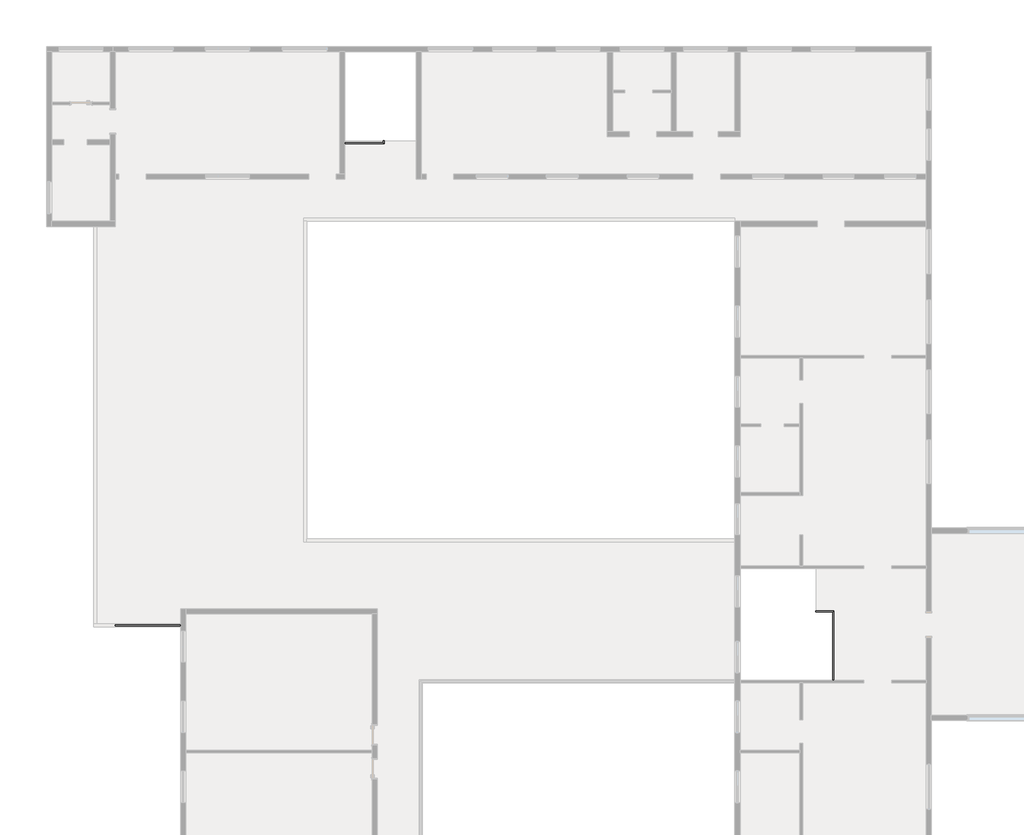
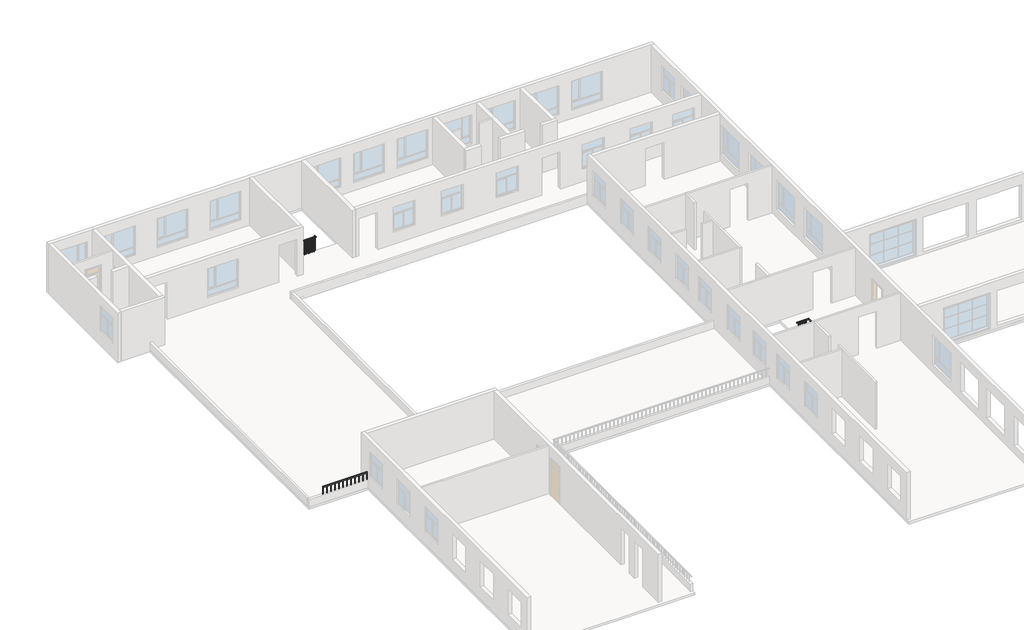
# One storey, part 4 of 4: 3 railings.
"""IFC4 building model written with IfcOpenShell, lengths in millimetres."""

import ifcopenshell
import ifcopenshell.guid

model = None  # the IFC model being written
_history = None  # IfcOwnerHistory: only IFC2X3 demands one
_inside = {}  # id of a spatial element -> (the spatial element, [elements in it])
_under = {}  # id of a project, library or spatial element -> (it, [spatial elements below it])
_declared = {}  # id of a project -> (the project, [libraries it declares])
_typed = {}  # id of a type object -> (the type object, [elements of that type])
_made_of = {}  # id of a material, layer set ... -> (it, [elements and type objects made of it])


def new_model(schema):
    """Start an empty IFC model of exactly this schema.

    Asked for "IFC4X3", IfcOpenShell would pick the latest addendum, in which some entities
    have other attributes; the version numbers below select the first issue.
    IFC2X3 requires an IfcOwnerHistory on every rooted entity: one is made here for all.
    """
    global model, _history
    if schema == "IFC4X3":
        model = ifcopenshell.file(schema_version=(4, 3, 0, 0))
    else:
        model = ifcopenshell.file(schema=schema)
    _inside.clear()
    _under.clear()
    _declared.clear()
    _typed.clear()
    _made_of.clear()
    _history = None
    if model.schema == "IFC2X3":
        org = make("IfcOrganization", Name="unknown")
        user = make(
            "IfcPersonAndOrganization",
            ThePerson=make("IfcPerson", FamilyName="unknown"),
            TheOrganization=org,
        )
        app = make(
            "IfcApplication",
            ApplicationDeveloper=org,
            Version="unknown",
            ApplicationFullName="unknown",
            ApplicationIdentifier="unknown",
        )
        _history = make(
            "IfcOwnerHistory",
            OwningUser=user,
            OwningApplication=app,
            ChangeAction="ADDED",
            CreationDate=0,
        )
    return model


def make(cls, **values):
    """One entity of the class cls with the attributes given. An attribute that is None is left unset."""
    return model.create_entity(
        cls, **{name: value for name, value in values.items() if value is not None}
    )


def rooted(cls, **values):
    """An entity with a GlobalId (a new one), such as an element, a storey or a relation."""
    return make(cls, GlobalId=ifcopenshell.guid.new(), OwnerHistory=_history, **values)


def si_unit(unit_type, name, prefix=None):
    """IfcSIUnit, for example si_unit("LENGTHUNIT", "METRE", prefix="MILLI")."""
    return make("IfcSIUnit", UnitType=unit_type, Prefix=prefix, Name=name)


def assignment(units):
    """IfcUnitAssignment: the units of a project."""
    return None if units is None else make("IfcUnitAssignment", Units=units)


def point(xyz):
    """IfcCartesianPoint."""
    return None if xyz is None else make("IfcCartesianPoint", Coordinates=xyz)


def direction(xyz):
    """IfcDirection."""
    return None if xyz is None else make("IfcDirection", DirectionRatios=xyz)


def frame(location, z_axis=None, x_axis=None):
    """IfcAxis2Placement3D, a coordinate frame: its origin and axes. An axis left out is left unset."""
    return make(
        "IfcAxis2Placement3D",
        Location=point(location),
        Axis=direction(z_axis),
        RefDirection=direction(x_axis),
    )


def origin():
    """The frame at (0, 0, 0) with its axes left unset."""
    return frame((0.0, 0.0, 0.0))


def place(relative_to, where):
    """IfcLocalPlacement: puts the frame where relative to a parent placement (None: the world)."""
    return make(
        "IfcLocalPlacement", PlacementRelTo=relative_to, RelativePlacement=where
    )


def context(
    kind, dimensions, precision=None, world=None, true_north=None, identifier=None
):
    """IfcGeometricRepresentationContext, for example the 3D "Model" context."""
    return make(
        "IfcGeometricRepresentationContext",
        ContextIdentifier=identifier,
        ContextType=kind,
        CoordinateSpaceDimension=dimensions,
        Precision=precision,
        WorldCoordinateSystem=world,
        TrueNorth=true_north,
    )


def project(units=None, contexts=None):
    """IfcProject with its units and contexts."""
    return rooted(
        "IfcProject",
        Name="project",
        RepresentationContexts=contexts,
        UnitsInContext=assignment(units),
    )


def spatial(cls, under=None, at=None, **own):
    """A site, building, storey or space (cls), placed at a placement, below another one or the project."""
    s = rooted(cls, ObjectPlacement=at, **own)
    if under is not None:
        _under.setdefault(under.id(), (under, []))[1].append(s)
    return s


def polyline(points):
    """IfcPolyline through the points."""
    return make("IfcPolyline", Points=[point(p) for p in points])


def outline(outer, holes=None, kind="AREA"):
    """IfcArbitraryClosedProfileDef: a profile drawn as a closed curve; with holes, ...WithVoids."""
    if holes is None:
        return make("IfcArbitraryClosedProfileDef", ProfileType=kind, OuterCurve=outer)
    return make(
        "IfcArbitraryProfileDefWithVoids",
        ProfileType=kind,
        OuterCurve=outer,
        InnerCurves=holes,
    )


def extrude(swept, where, along, depth):
    """IfcExtrudedAreaSolid: the profile swept, set in the frame where, extruded along a direction by depth."""
    return make(
        "IfcExtrudedAreaSolid",
        SweptArea=swept,
        Position=where,
        ExtrudedDirection=direction(along),
        Depth=depth,
    )


def faces_of(points, faces, orient=None, outer=None):
    """IfcFace entities. A face is a list of loops; a loop is a list of indices into points, from 0.

    orient and outer hold one flag for each loop. By default every Orientation is true, the
    first loop of a face is its IfcFaceOuterBound and the others are IfcFaceBound.
    """
    made = []
    for i, loops in enumerate(faces):
        bounds = []
        for j, loop in enumerate(loops):
            is_outer = j == 0 if outer is None else outer[i][j]
            bounds.append(
                make(
                    "IfcFaceOuterBound" if is_outer else "IfcFaceBound",
                    Bound=make("IfcPolyLoop", Polygon=[points[k] for k in loop]),
                    Orientation=True if orient is None else orient[i][j],
                )
            )
        made.append(make("IfcFace", Bounds=bounds))
    return made


def faceted_brep(points, faces, orient=None, outer=None, voids=None):
    """IfcFacetedBrep: a solid bounded by flat faces; with voids (closed shells), ...WithVoids."""
    shared = [point(p) for p in points]
    hull = make("IfcClosedShell", CfsFaces=faces_of(shared, faces, orient, outer))
    if voids is None:
        return make("IfcFacetedBrep", Outer=hull)
    return make(
        "IfcFacetedBrepWithVoids",
        Outer=hull,
        Voids=[
            make(cls, CfsFaces=faces_of(shared, fs, o, b)) for cls, fs, o, b in voids
        ],
    )


def shape(context_of_items, identifier, shape_type, items):
    """IfcShapeRepresentation: the items that make up one representation, for example the "Body"."""
    return make(
        "IfcShapeRepresentation",
        ContextOfItems=context_of_items,
        RepresentationIdentifier=identifier,
        RepresentationType=shape_type,
        Items=items,
    )


def made_of(thing, what):
    """Note that an element or type object is made of a material, layer set ...; save() writes the relation."""
    if what is not None:
        _made_of.setdefault(what.id(), (what, []))[1].append(thing)
    return thing


def element(
    cls,
    number,
    at=None,
    inside=None,
    cuts=None,
    type_object=None,
    material=None,
    context=None,
    identifier="Body",
    shape_type=None,
    held_by="IfcProductDefinitionShape",
    body=None,
    shapes=None,
    **own,
):
    """One element of the class cls, such as IfcWall. Its Tag is "e" and its number.

    at: its placement. inside: the storey or other place that contains it. cuts: it is an
    opening in that element (IfcRelVoidsElement). A single representation is given by context,
    identifier, shape_type and body (its items); several are given by shapes. held_by: the class
    of the entity that holds the representations. save() writes the other relations.
    """
    e = rooted(cls, Tag="e%d" % number, ObjectPlacement=at, **own)
    if body is not None:
        shapes = [shape(context, identifier, shape_type, body)]
    if shapes is not None:
        e.Representation = make(held_by, Representations=shapes)
    if inside is not None:
        _inside.setdefault(inside.id(), (inside, []))[1].append(e)
    if cuts is not None:
        rooted(
            "IfcRelVoidsElement", RelatingBuildingElement=cuts, RelatedOpeningElement=e
        )
    if type_object is not None:
        _typed.setdefault(type_object.id(), (type_object, []))[1].append(e)
    return made_of(e, material)


def aggregate(whole, parts):
    """IfcRelAggregates: a whole, such as a stair, and the parts it consists of."""
    return rooted("IfcRelAggregates", RelatingObject=whole, RelatedObjects=parts)


def save(model, path):
    """Write the relations noted so far, then the file.

    IfcRelAggregates (storeys below a building ...), IfcRelContainedInSpatialStructure (elements
    in a storey), IfcRelDefinesByType, IfcRelAssociatesMaterial and IfcRelDeclares: one each for
    every whole, place, type object, material and project.
    """
    for whole, parts in _under.values():
        aggregate(whole, parts)
    for where, things in _inside.values():
        rooted(
            "IfcRelContainedInSpatialStructure",
            RelatedElements=things,
            RelatingStructure=where,
        )
    for kind, things in _typed.values():
        rooted("IfcRelDefinesByType", RelatedObjects=things, RelatingType=kind)
    for what, things in _made_of.values():
        rooted("IfcRelAssociatesMaterial", RelatedObjects=things, RelatingMaterial=what)
    for by, libraries in _declared.values():
        rooted("IfcRelDeclares", RelatingContext=by, RelatedDefinitions=libraries)
    model.write(path)


model = new_model("IFC4")

# Units and contexts
model_context = context("Model", 3, world=origin())
ifc_project = project(units=[si_unit("LENGTHUNIT", "METRE", prefix="MILLI")], contexts=[model_context])

# Site, building, storey
site = spatial("IfcSite", under=ifc_project)
building = spatial("IfcBuilding", under=site)
storey = spatial("IfcBuildingStorey", under=building, Name="二层", Elevation=3600.0)

# Railings
placement = place(None, origin())
element("IfcRailing", 1, ObjectType="900mm", at=placement, inside=storey, context=model_context, shape_type="SweptSolid", body=[
    extrude(outline(polyline([(-28830.2831392, -8543.7838385), (-28830.2831392, -8593.7838385), (-32150.2831392, -8593.7838385), (-32150.2831392, -8543.7838385), (-28830.2831392, -8543.7838385)])), frame((0.0, 0.0, 4650.0), z_axis=(0.0, 0.0, 1.0), x_axis=(1.0, 0.0, 0.0)), (0.0, 0.0, 1.0), 50.0),
    extrude(outline(polyline([(-32120.2831392, -8558.7838385), (-32120.2831392, -8578.7838385), (-32140.2831392, -8578.7838385), (-32140.2831392, -8558.7838385), (-32120.2831392, -8558.7838385)])), frame((0.0, 0.0, 4150.0), z_axis=(0.0, 0.0, 1.0), x_axis=(1.0, 0.0, 0.0)), (0.0, 0.0, 1.0), 500.0),
    extrude(outline(polyline([(-31845.2831392, -8558.7838385), (-31845.2831392, -8578.7838385), (-31865.2831392, -8578.7838385), (-31865.2831392, -8558.7838385), (-31845.2831392, -8558.7838385)])), frame((0.0, 0.0, 4150.0), z_axis=(0.0, 0.0, 1.0), x_axis=(1.0, 0.0, 0.0)), (0.0, 0.0, 1.0), 500.0),
    extrude(outline(polyline([(-31570.2831392, -8558.7838385), (-31570.2831392, -8578.7838385), (-31590.2831392, -8578.7838385), (-31590.2831392, -8558.7838385), (-31570.2831392, -8558.7838385)])), frame((0.0, 0.0, 4150.0), z_axis=(0.0, 0.0, 1.0), x_axis=(1.0, 0.0, 0.0)), (0.0, 0.0, 1.0), 500.0),
    extrude(outline(polyline([(-31295.2831392, -8558.7838385), (-31295.2831392, -8578.7838385), (-31315.2831392, -8578.7838385), (-31315.2831392, -8558.7838385), (-31295.2831392, -8558.7838385)])), frame((0.0, 0.0, 4150.0), z_axis=(0.0, 0.0, 1.0), x_axis=(1.0, 0.0, 0.0)), (0.0, 0.0, 1.0), 500.0),
    extrude(outline(polyline([(-31020.2831392, -8558.7838385), (-31020.2831392, -8578.7838385), (-31040.2831392, -8578.7838385), (-31040.2831392, -8558.7838385), (-31020.2831392, -8558.7838385)])), frame((0.0, 0.0, 4150.0), z_axis=(0.0, 0.0, 1.0), x_axis=(1.0, 0.0, 0.0)), (0.0, 0.0, 1.0), 500.0),
    extrude(outline(polyline([(-30745.2831392, -8558.7838385), (-30745.2831392, -8578.7838385), (-30765.2831392, -8578.7838385), (-30765.2831392, -8558.7838385), (-30745.2831392, -8558.7838385)])), frame((0.0, 0.0, 4150.0), z_axis=(0.0, 0.0, 1.0), x_axis=(1.0, 0.0, 0.0)), (0.0, 0.0, 1.0), 500.0),
    extrude(outline(polyline([(-30470.2831392, -8558.7838385), (-30470.2831392, -8578.7838385), (-30490.2831392, -8578.7838385), (-30490.2831392, -8558.7838385), (-30470.2831392, -8558.7838385)])), frame((0.0, 0.0, 4150.0), z_axis=(0.0, 0.0, 1.0), x_axis=(1.0, 0.0, 0.0)), (0.0, 0.0, 1.0), 500.0),
    extrude(outline(polyline([(-30195.2831392, -8558.7838385), (-30195.2831392, -8578.7838385), (-30215.2831392, -8578.7838385), (-30215.2831392, -8558.7838385), (-30195.2831392, -8558.7838385)])), frame((0.0, 0.0, 4150.0), z_axis=(0.0, 0.0, 1.0), x_axis=(1.0, 0.0, 0.0)), (0.0, 0.0, 1.0), 500.0),
    extrude(outline(polyline([(-29920.2831392, -8558.7838385), (-29920.2831392, -8578.7838385), (-29940.2831392, -8578.7838385), (-29940.2831392, -8558.7838385), (-29920.2831392, -8558.7838385)])), frame((0.0, 0.0, 4150.0), z_axis=(0.0, 0.0, 1.0), x_axis=(1.0, 0.0, 0.0)), (0.0, 0.0, 1.0), 500.0),
    extrude(outline(polyline([(-29645.2831392, -8558.7838385), (-29645.2831392, -8578.7838385), (-29665.2831392, -8578.7838385), (-29665.2831392, -8558.7838385), (-29645.2831392, -8558.7838385)])), frame((0.0, 0.0, 4150.0), z_axis=(0.0, 0.0, 1.0), x_axis=(1.0, 0.0, 0.0)), (0.0, 0.0, 1.0), 500.0),
    extrude(outline(polyline([(-29370.2831392, -8558.7838385), (-29370.2831392, -8578.7838385), (-29390.2831392, -8578.7838385), (-29390.2831392, -8558.7838385), (-29370.2831392, -8558.7838385)])), frame((0.0, 0.0, 4150.0), z_axis=(0.0, 0.0, 1.0), x_axis=(1.0, 0.0, 0.0)), (0.0, 0.0, 1.0), 500.0),
    extrude(outline(polyline([(-29095.2831392, -8558.7838385), (-29095.2831392, -8578.7838385), (-29115.2831392, -8578.7838385), (-29115.2831392, -8558.7838385), (-29095.2831392, -8558.7838385)])), frame((0.0, 0.0, 4150.0), z_axis=(0.0, 0.0, 1.0), x_axis=(1.0, 0.0, 0.0)), (0.0, 0.0, 1.0), 500.0),
])
element("IfcRailing", 2, ObjectType="900mm 3", at=placement, inside=storey, context=model_context, shape_type="SolidModel", body=[
    faceted_brep([(809.7168608, -7883.7838385, 4680.0), (809.7168608, -7883.7838385, 4630.0), (809.7168608, -7933.7838385, 4630.0), (809.7168608, -7933.7838385, 4680.0), (1659.7168608, -7883.7838385, 4680.0), (1659.7168608, -7883.7838385, 4630.0), (1609.7168608, -7933.7838385, 4630.0), (1609.7168608, -7933.7838385, 4680.0), (1659.7168608, -11153.7838385, 4680.0), (1609.7168608, -11153.7838385, 4680.0), (1609.7168608, -11153.7838385, 4630.0), (1659.7168608, -11153.7838385, 4630.0)], [[[0, 1, 2, 3]], [[1, 0, 4, 5]], [[2, 1, 5, 6]], [[3, 2, 6, 7]], [[0, 3, 7, 4]], [[8, 9, 10, 11]], [[5, 4, 8, 11]], [[6, 5, 11, 10]], [[7, 6, 10, 9]], [[4, 7, 9, 8]]]),
    extrude(outline(polyline([(1624.7168608, -11018.7838385), (1644.7168608, -11018.7838385), (1644.7168608, -11038.7838385), (1624.7168608, -11038.7838385), (1624.7168608, -11018.7838385)])), frame((0.0, 0.0, 3600.0), z_axis=(0.0, 0.0, 1.0), x_axis=(1.0, 0.0, 0.0)), (0.0, 0.0, 1.0), 1030.0),
    extrude(outline(polyline([(1624.7168608, -10888.7838385), (1644.7168608, -10888.7838385), (1644.7168608, -10908.7838385), (1624.7168608, -10908.7838385), (1624.7168608, -10888.7838385)])), frame((0.0, 0.0, 3600.0), z_axis=(0.0, 0.0, 1.0), x_axis=(1.0, 0.0, 0.0)), (0.0, 0.0, 1.0), 1030.0),
    extrude(outline(polyline([(1624.7168608, -10758.7838385), (1644.7168608, -10758.7838385), (1644.7168608, -10778.7838385), (1624.7168608, -10778.7838385), (1624.7168608, -10758.7838385)])), frame((0.0, 0.0, 3600.0), z_axis=(0.0, 0.0, 1.0), x_axis=(1.0, 0.0, 0.0)), (0.0, 0.0, 1.0), 1030.0),
    extrude(outline(polyline([(1624.7168608, -10628.7838385), (1644.7168608, -10628.7838385), (1644.7168608, -10648.7838385), (1624.7168608, -10648.7838385), (1624.7168608, -10628.7838385)])), frame((0.0, 0.0, 3600.0), z_axis=(0.0, 0.0, 1.0), x_axis=(1.0, 0.0, 0.0)), (0.0, 0.0, 1.0), 1030.0),
    extrude(outline(polyline([(1624.7168608, -10498.7838385), (1644.7168608, -10498.7838385), (1644.7168608, -10518.7838385), (1624.7168608, -10518.7838385), (1624.7168608, -10498.7838385)])), frame((0.0, 0.0, 3600.0), z_axis=(0.0, 0.0, 1.0), x_axis=(1.0, 0.0, 0.0)), (0.0, 0.0, 1.0), 1030.0),
    extrude(outline(polyline([(1624.7168608, -10368.7838385), (1644.7168608, -10368.7838385), (1644.7168608, -10388.7838385), (1624.7168608, -10388.7838385), (1624.7168608, -10368.7838385)])), frame((0.0, 0.0, 3600.0), z_axis=(0.0, 0.0, 1.0), x_axis=(1.0, 0.0, 0.0)), (0.0, 0.0, 1.0), 1030.0),
    extrude(outline(polyline([(1624.7168608, -10238.7838385), (1644.7168608, -10238.7838385), (1644.7168608, -10258.7838385), (1624.7168608, -10258.7838385), (1624.7168608, -10238.7838385)])), frame((0.0, 0.0, 3600.0), z_axis=(0.0, 0.0, 1.0), x_axis=(1.0, 0.0, 0.0)), (0.0, 0.0, 1.0), 1030.0),
    extrude(outline(polyline([(1624.7168608, -10108.7838385), (1644.7168608, -10108.7838385), (1644.7168608, -10128.7838385), (1624.7168608, -10128.7838385), (1624.7168608, -10108.7838385)])), frame((0.0, 0.0, 3600.0), z_axis=(0.0, 0.0, 1.0), x_axis=(1.0, 0.0, 0.0)), (0.0, 0.0, 1.0), 1030.0),
    extrude(outline(polyline([(1624.7168608, -9978.7838385), (1644.7168608, -9978.7838385), (1644.7168608, -9998.7838385), (1624.7168608, -9998.7838385), (1624.7168608, -9978.7838385)])), frame((0.0, 0.0, 3600.0), z_axis=(0.0, 0.0, 1.0), x_axis=(1.0, 0.0, 0.0)), (0.0, 0.0, 1.0), 1030.0),
    extrude(outline(polyline([(1624.7168608, -9848.7838385), (1644.7168608, -9848.7838385), (1644.7168608, -9868.7838385), (1624.7168608, -9868.7838385), (1624.7168608, -9848.7838385)])), frame((0.0, 0.0, 3600.0), z_axis=(0.0, 0.0, 1.0), x_axis=(1.0, 0.0, 0.0)), (0.0, 0.0, 1.0), 1030.0),
    extrude(outline(polyline([(1624.7168608, -9718.7838385), (1644.7168608, -9718.7838385), (1644.7168608, -9738.7838385), (1624.7168608, -9738.7838385), (1624.7168608, -9718.7838385)])), frame((0.0, 0.0, 3600.0), z_axis=(0.0, 0.0, 1.0), x_axis=(1.0, 0.0, 0.0)), (0.0, 0.0, 1.0), 1030.0),
    extrude(outline(polyline([(1624.7168608, -9588.7838385), (1644.7168608, -9588.7838385), (1644.7168608, -9608.7838385), (1624.7168608, -9608.7838385), (1624.7168608, -9588.7838385)])), frame((0.0, 0.0, 3600.0), z_axis=(0.0, 0.0, 1.0), x_axis=(1.0, 0.0, 0.0)), (0.0, 0.0, 1.0), 1030.0),
    extrude(outline(polyline([(1624.7168608, -9458.7838385), (1644.7168608, -9458.7838385), (1644.7168608, -9478.7838385), (1624.7168608, -9478.7838385), (1624.7168608, -9458.7838385)])), frame((0.0, 0.0, 3600.0), z_axis=(0.0, 0.0, 1.0), x_axis=(1.0, 0.0, 0.0)), (0.0, 0.0, 1.0), 1030.0),
    extrude(outline(polyline([(1624.7168608, -9328.7838385), (1644.7168608, -9328.7838385), (1644.7168608, -9348.7838385), (1624.7168608, -9348.7838385), (1624.7168608, -9328.7838385)])), frame((0.0, 0.0, 3600.0), z_axis=(0.0, 0.0, 1.0), x_axis=(1.0, 0.0, 0.0)), (0.0, 0.0, 1.0), 1030.0),
    extrude(outline(polyline([(1624.7168608, -9198.7838385), (1644.7168608, -9198.7838385), (1644.7168608, -9218.7838385), (1624.7168608, -9218.7838385), (1624.7168608, -9198.7838385)])), frame((0.0, 0.0, 3600.0), z_axis=(0.0, 0.0, 1.0), x_axis=(1.0, 0.0, 0.0)), (0.0, 0.0, 1.0), 1030.0),
    extrude(outline(polyline([(1624.7168608, -9068.7838385), (1644.7168608, -9068.7838385), (1644.7168608, -9088.7838385), (1624.7168608, -9088.7838385), (1624.7168608, -9068.7838385)])), frame((0.0, 0.0, 3600.0), z_axis=(0.0, 0.0, 1.0), x_axis=(1.0, 0.0, 0.0)), (0.0, 0.0, 1.0), 1030.0),
    extrude(outline(polyline([(1624.7168608, -8938.7838385), (1644.7168608, -8938.7838385), (1644.7168608, -8958.7838385), (1624.7168608, -8958.7838385), (1624.7168608, -8938.7838385)])), frame((0.0, 0.0, 3600.0), z_axis=(0.0, 0.0, 1.0), x_axis=(1.0, 0.0, 0.0)), (0.0, 0.0, 1.0), 1030.0),
    extrude(outline(polyline([(1624.7168608, -8808.7838385), (1644.7168608, -8808.7838385), (1644.7168608, -8828.7838385), (1624.7168608, -8828.7838385), (1624.7168608, -8808.7838385)])), frame((0.0, 0.0, 3600.0), z_axis=(0.0, 0.0, 1.0), x_axis=(1.0, 0.0, 0.0)), (0.0, 0.0, 1.0), 1030.0),
    extrude(outline(polyline([(1624.7168608, -8678.7838385), (1644.7168608, -8678.7838385), (1644.7168608, -8698.7838385), (1624.7168608, -8698.7838385), (1624.7168608, -8678.7838385)])), frame((0.0, 0.0, 3600.0), z_axis=(0.0, 0.0, 1.0), x_axis=(1.0, 0.0, 0.0)), (0.0, 0.0, 1.0), 1030.0),
    extrude(outline(polyline([(1624.7168608, -8548.7838385), (1644.7168608, -8548.7838385), (1644.7168608, -8568.7838385), (1624.7168608, -8568.7838385), (1624.7168608, -8548.7838385)])), frame((0.0, 0.0, 3600.0), z_axis=(0.0, 0.0, 1.0), x_axis=(1.0, 0.0, 0.0)), (0.0, 0.0, 1.0), 1030.0),
    extrude(outline(polyline([(1624.7168608, -8418.7838385), (1644.7168608, -8418.7838385), (1644.7168608, -8438.7838385), (1624.7168608, -8438.7838385), (1624.7168608, -8418.7838385)])), frame((0.0, 0.0, 3600.0), z_axis=(0.0, 0.0, 1.0), x_axis=(1.0, 0.0, 0.0)), (0.0, 0.0, 1.0), 1030.0),
    extrude(outline(polyline([(1624.7168608, -8288.7838385), (1644.7168608, -8288.7838385), (1644.7168608, -8308.7838385), (1624.7168608, -8308.7838385), (1624.7168608, -8288.7838385)])), frame((0.0, 0.0, 3600.0), z_axis=(0.0, 0.0, 1.0), x_axis=(1.0, 0.0, 0.0)), (0.0, 0.0, 1.0), 1030.0),
    extrude(outline(polyline([(1624.7168608, -8158.7838385), (1644.7168608, -8158.7838385), (1644.7168608, -8178.7838385), (1624.7168608, -8178.7838385), (1624.7168608, -8158.7838385)])), frame((0.0, 0.0, 3600.0), z_axis=(0.0, 0.0, 1.0), x_axis=(1.0, 0.0, 0.0)), (0.0, 0.0, 1.0), 1030.0),
    extrude(outline(polyline([(1624.7168608, -8028.7838385), (1644.7168608, -8028.7838385), (1644.7168608, -8048.7838385), (1624.7168608, -8048.7838385), (1624.7168608, -8028.7838385)])), frame((0.0, 0.0, 3600.0), z_axis=(0.0, 0.0, 1.0), x_axis=(1.0, 0.0, 0.0)), (0.0, 0.0, 1.0), 1030.0),
    extrude(outline(polyline([(1449.7168608, -7918.7838385), (1449.7168608, -7898.7838385), (1469.7168608, -7898.7838385), (1469.7168608, -7918.7838385), (1449.7168608, -7918.7838385)])), frame((0.0, 0.0, 3600.0), z_axis=(0.0, 0.0, 1.0), x_axis=(1.0, 0.0, 0.0)), (0.0, 0.0, 1.0), 1030.0),
    extrude(outline(polyline([(1319.7168608, -7918.7838385), (1319.7168608, -7898.7838385), (1339.7168608, -7898.7838385), (1339.7168608, -7918.7838385), (1319.7168608, -7918.7838385)])), frame((0.0, 0.0, 3600.0), z_axis=(0.0, 0.0, 1.0), x_axis=(1.0, 0.0, 0.0)), (0.0, 0.0, 1.0), 1030.0),
    extrude(outline(polyline([(1189.7168608, -7918.7838385), (1189.7168608, -7898.7838385), (1209.7168608, -7898.7838385), (1209.7168608, -7918.7838385), (1189.7168608, -7918.7838385)])), frame((0.0, 0.0, 3600.0), z_axis=(0.0, 0.0, 1.0), x_axis=(1.0, 0.0, 0.0)), (0.0, 0.0, 1.0), 1030.0),
    extrude(outline(polyline([(1059.7168608, -7918.7838385), (1059.7168608, -7898.7838385), (1079.7168608, -7898.7838385), (1079.7168608, -7918.7838385), (1059.7168608, -7918.7838385)])), frame((0.0, 0.0, 3600.0), z_axis=(0.0, 0.0, 1.0), x_axis=(1.0, 0.0, 0.0)), (0.0, 0.0, 1.0), 1030.0),
    extrude(outline(polyline([(929.7168608, -7918.7838385), (929.7168608, -7898.7838385), (949.7168608, -7898.7838385), (949.7168608, -7918.7838385), (929.7168608, -7918.7838385)])), frame((0.0, 0.0, 3600.0), z_axis=(0.0, 0.0, 1.0), x_axis=(1.0, 0.0, 0.0)), (0.0, 0.0, 1.0), 1030.0),
])
element("IfcRailing", 3, ObjectType="900mm 6", at=placement, inside=storey, context=model_context, shape_type="SolidModel", body=[
    faceted_brep([(-19490.2831392, 14256.2161615, 4671.4), (-19490.2831392, 14256.2161615, 4621.4), (-19540.2831392, 14256.2161615, 4621.4), (-19540.2831392, 14256.2161615, 4671.4), (-19490.2831392, 14126.2161615, 4671.4), (-19490.2831392, 14126.2161615, 4621.4), (-19540.2831392, 14176.2161615, 4621.4), (-19540.2831392, 14176.2161615, 4671.4), (-21350.2831392, 14126.2161615, 4671.4), (-21350.2831392, 14176.2161615, 4671.4), (-21350.2831392, 14176.2161615, 4621.4), (-21350.2831392, 14126.2161615, 4621.4)], [[[0, 1, 2, 3]], [[1, 0, 4, 5]], [[2, 1, 5, 6]], [[3, 2, 6, 7]], [[0, 3, 7, 4]], [[8, 9, 10, 11]], [[5, 4, 8, 11]], [[6, 5, 11, 10]], [[7, 6, 10, 9]], [[4, 7, 9, 8]]]),
    extrude(outline(polyline([(-21325.2831392, 14161.2161615), (-21325.2831392, 14141.2161615), (-21345.2831392, 14141.2161615), (-21345.2831392, 14161.2161615), (-21325.2831392, 14161.2161615)])), frame((0.0, 0.0, 3600.0), z_axis=(0.0, 0.0, 1.0), x_axis=(1.0, 0.0, 0.0)), (0.0, 0.0, 1.0), 1021.4),
    extrude(outline(polyline([(-21195.2831392, 14161.2161615), (-21195.2831392, 14141.2161615), (-21215.2831392, 14141.2161615), (-21215.2831392, 14161.2161615), (-21195.2831392, 14161.2161615)])), frame((0.0, 0.0, 3600.0), z_axis=(0.0, 0.0, 1.0), x_axis=(1.0, 0.0, 0.0)), (0.0, 0.0, 1.0), 1021.4),
    extrude(outline(polyline([(-21065.2831392, 14161.2161615), (-21065.2831392, 14141.2161615), (-21085.2831392, 14141.2161615), (-21085.2831392, 14161.2161615), (-21065.2831392, 14161.2161615)])), frame((0.0, 0.0, 3600.0), z_axis=(0.0, 0.0, 1.0), x_axis=(1.0, 0.0, 0.0)), (0.0, 0.0, 1.0), 1021.4),
    extrude(outline(polyline([(-20935.2831392, 14161.2161615), (-20935.2831392, 14141.2161615), (-20955.2831392, 14141.2161615), (-20955.2831392, 14161.2161615), (-20935.2831392, 14161.2161615)])), frame((0.0, 0.0, 3600.0), z_axis=(0.0, 0.0, 1.0), x_axis=(1.0, 0.0, 0.0)), (0.0, 0.0, 1.0), 1021.4),
    extrude(outline(polyline([(-20805.2831392, 14161.2161615), (-20805.2831392, 14141.2161615), (-20825.2831392, 14141.2161615), (-20825.2831392, 14161.2161615), (-20805.2831392, 14161.2161615)])), frame((0.0, 0.0, 3600.0), z_axis=(0.0, 0.0, 1.0), x_axis=(1.0, 0.0, 0.0)), (0.0, 0.0, 1.0), 1021.4),
    extrude(outline(polyline([(-20675.2831392, 14161.2161615), (-20675.2831392, 14141.2161615), (-20695.2831392, 14141.2161615), (-20695.2831392, 14161.2161615), (-20675.2831392, 14161.2161615)])), frame((0.0, 0.0, 3600.0), z_axis=(0.0, 0.0, 1.0), x_axis=(1.0, 0.0, 0.0)), (0.0, 0.0, 1.0), 1021.4),
    extrude(outline(polyline([(-20545.2831392, 14161.2161615), (-20545.2831392, 14141.2161615), (-20565.2831392, 14141.2161615), (-20565.2831392, 14161.2161615), (-20545.2831392, 14161.2161615)])), frame((0.0, 0.0, 3600.0), z_axis=(0.0, 0.0, 1.0), x_axis=(1.0, 0.0, 0.0)), (0.0, 0.0, 1.0), 1021.4),
    extrude(outline(polyline([(-20415.2831392, 14161.2161615), (-20415.2831392, 14141.2161615), (-20435.2831392, 14141.2161615), (-20435.2831392, 14161.2161615), (-20415.2831392, 14161.2161615)])), frame((0.0, 0.0, 3600.0), z_axis=(0.0, 0.0, 1.0), x_axis=(1.0, 0.0, 0.0)), (0.0, 0.0, 1.0), 1021.4),
    extrude(outline(polyline([(-20285.2831392, 14161.2161615), (-20285.2831392, 14141.2161615), (-20305.2831392, 14141.2161615), (-20305.2831392, 14161.2161615), (-20285.2831392, 14161.2161615)])), frame((0.0, 0.0, 3600.0), z_axis=(0.0, 0.0, 1.0), x_axis=(1.0, 0.0, 0.0)), (0.0, 0.0, 1.0), 1021.4),
    extrude(outline(polyline([(-20155.2831392, 14161.2161615), (-20155.2831392, 14141.2161615), (-20175.2831392, 14141.2161615), (-20175.2831392, 14161.2161615), (-20155.2831392, 14161.2161615)])), frame((0.0, 0.0, 3600.0), z_axis=(0.0, 0.0, 1.0), x_axis=(1.0, 0.0, 0.0)), (0.0, 0.0, 1.0), 1021.4),
    extrude(outline(polyline([(-20025.2831392, 14161.2161615), (-20025.2831392, 14141.2161615), (-20045.2831392, 14141.2161615), (-20045.2831392, 14161.2161615), (-20025.2831392, 14161.2161615)])), frame((0.0, 0.0, 3600.0), z_axis=(0.0, 0.0, 1.0), x_axis=(1.0, 0.0, 0.0)), (0.0, 0.0, 1.0), 1021.4),
    extrude(outline(polyline([(-19895.2831392, 14161.2161615), (-19895.2831392, 14141.2161615), (-19915.2831392, 14141.2161615), (-19915.2831392, 14161.2161615), (-19895.2831392, 14161.2161615)])), frame((0.0, 0.0, 3600.0), z_axis=(0.0, 0.0, 1.0), x_axis=(1.0, 0.0, 0.0)), (0.0, 0.0, 1.0), 1021.4),
    extrude(outline(polyline([(-19765.2831392, 14161.2161615), (-19765.2831392, 14141.2161615), (-19785.2831392, 14141.2161615), (-19785.2831392, 14161.2161615), (-19765.2831392, 14161.2161615)])), frame((0.0, 0.0, 3600.0), z_axis=(0.0, 0.0, 1.0), x_axis=(1.0, 0.0, 0.0)), (0.0, 0.0, 1.0), 1021.4),
    extrude(outline(polyline([(-19635.2831392, 14161.2161615), (-19635.2831392, 14141.2161615), (-19655.2831392, 14141.2161615), (-19655.2831392, 14161.2161615), (-19635.2831392, 14161.2161615)])), frame((0.0, 0.0, 3600.0), z_axis=(0.0, 0.0, 1.0), x_axis=(1.0, 0.0, 0.0)), (0.0, 0.0, 1.0), 1021.4),
    extrude(outline(polyline([(-19527.7831392, 14258.7161615), (-19502.7831392, 14258.7161615), (-19502.7831392, 14233.7161615), (-19527.7831392, 14233.7161615), (-19527.7831392, 14258.7161615)])), frame((0.0, 0.0, 3600.0), z_axis=(0.0, 0.0, 1.0), x_axis=(1.0, 0.0, 0.0)), (0.0, 0.0, 1.0), 1021.4),
])

save(model, "model.ifc")
